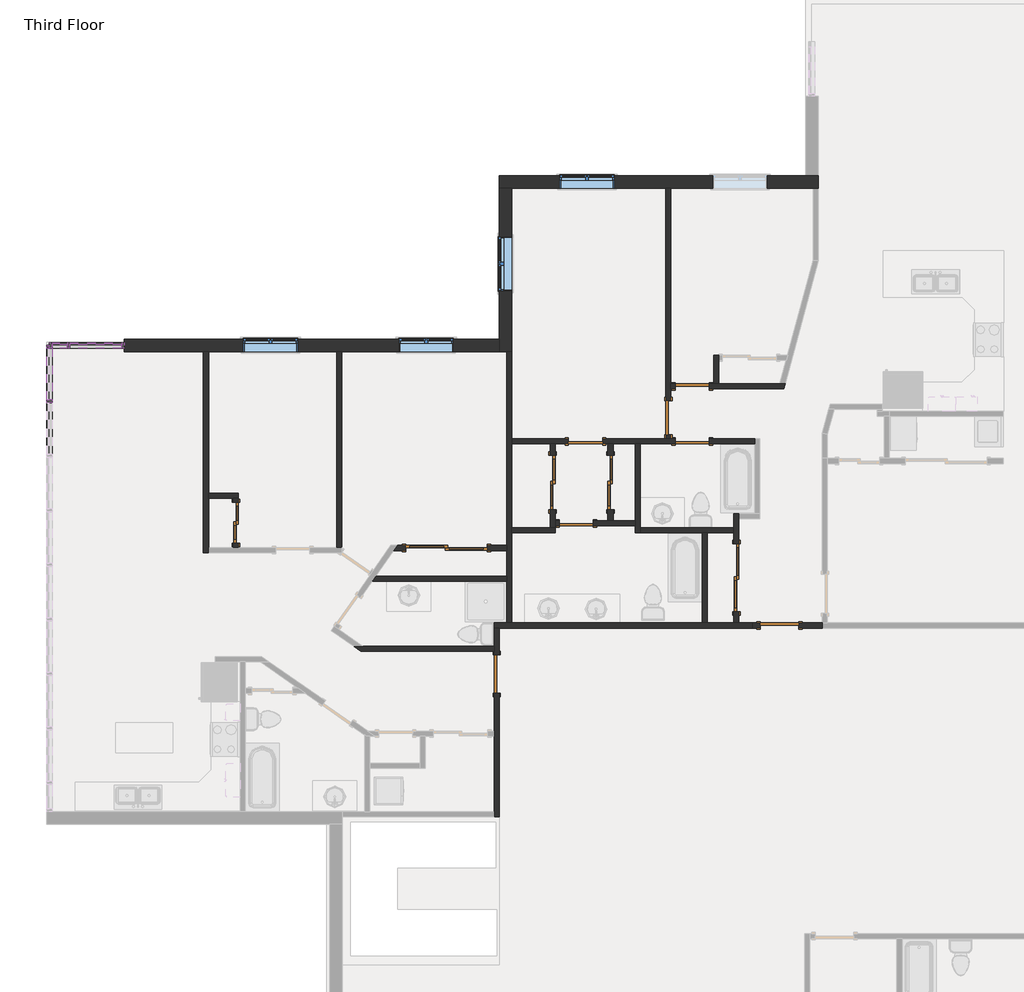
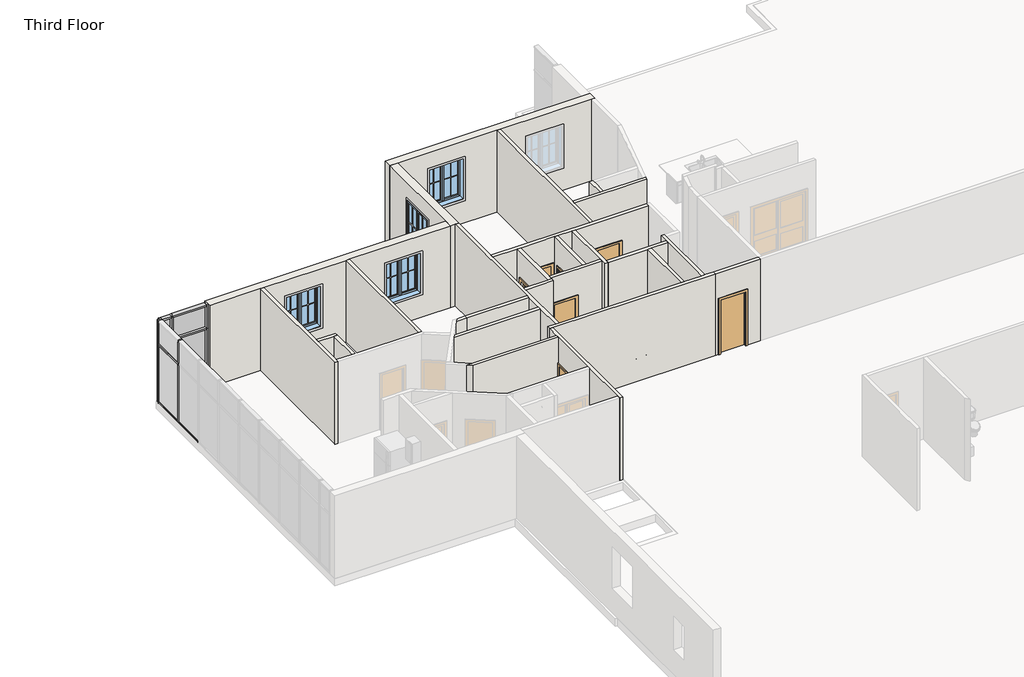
# One storey, part 8 of 17: 27 walls, 19 members, 12 doors, 4 plates, 4 windows.
"""IFC4 building model written with IfcOpenShell, lengths in millimetres."""

from ifc_helpers import new_model, si_unit, frame, origin, place, context, project, spatial, polyline, outline, extrude, faceted_brep, transform, mapped, element, save
from components import door_d8f5dbb5, door_f2b275c1, door_825b8444, door_c29894e6, door_88c23cd7, door_900f836f, door_2e7ec8be, door_caaf2a11, rectangular_mullion_rectangular_mullion_1_fa3625a1, rectangular_mullion_rectangular_mullion_1_7cbf0b94, rectangular_mullion_rectangular_mullion_1_6186cc23, rectangular_mullion_rectangular_mullion_1_049a2e78, rectangular_mullion_rectangular_mullion_1_a50b3cda, rectangular_mullion_rectangular_mullion_1_5cd4c5ac, rectangular_mullion_rectangular_mullion_1_64aff199, rectangular_mullion_rectangular_mullion_1_b6c962ab, system_panel_glazed_0ed27d1d, system_panel_glazed_134bacdb, system_panel_glazed_a3383988, system_panel_glazed_d9a092fd, window_33528cc2

model = new_model("IFC4")

# Units and contexts
model_context = context("Model", 3, world=origin())
ifc_project = project(units=[si_unit("LENGTHUNIT", "METRE", prefix="MILLI")], contexts=[model_context])

# Site, building, storey
site = spatial("IfcSite", under=ifc_project)
building = spatial("IfcBuilding", under=site)
storey = spatial("IfcBuildingStorey", under=building, Name="Third Floor", Elevation=6096.0)

# Doors
placement = place(None, origin())
door_shape = door_d8f5dbb5(model_context)
element("IfcDoor", 1, ObjectType="Single-Flush : 30\" x 80\"", at=placement, inside=storey, context=model_context, shape_type="MappedRepresentation", body=[
    mapped(door_shape, transform((12409.9063982, 4588.2091714, 6096.0), x_axis=(-1.0, 0.0, 0.0), y_axis=(0.0, -1.0, 0.0), z_axis=(0.0, 0.0, 1.0))),
])
door_2_shape = door_f2b275c1(model_context)
element("IfcDoor", 2, ObjectType="Single-Flush : 30\" x 80\"", at=placement, inside=storey, context=model_context, shape_type="MappedRepresentation", body=[
    mapped(door_2_shape, transform((15004.9379006, 7654.5108545, 6096.0), x_axis=(-1.0, 0.0, 0.0), y_axis=(0.0, -1.0, 0.0), z_axis=(0.0, 0.0, 1.0))),
])
element("IfcDoor", 3, ObjectType="Single-Flush : 30\" x 80\"", at=placement, inside=storey, context=model_context, shape_type="MappedRepresentation", body=[
    mapped(door_2_shape, transform((14468.0674417, 6956.8936958, 6096.0), x_axis=(0.0, -1.0, 0.0), y_axis=(1.0, 0.0, 0.0), z_axis=(0.0, 0.0, 1.0))),
])
element("IfcDoor", 4, ObjectType="Single-Flush : 30\" x 80\"", at=placement, inside=storey, context=model_context, shape_type="MappedRepresentation", body=[
    mapped(door_2_shape, transform((12612.1535557, 6423.4936958, 6096.0), x_axis=(1.0, 0.0, 0.0), y_axis=(0.0, 1.0, 0.0), z_axis=(0.0, 0.0, 1.0))),
])
element("IfcDoor", 5, ObjectType="Single-Flush : 30\" x 80\"", at=placement, inside=storey, context=model_context, shape_type="MappedRepresentation", body=[
    mapped(door_2_shape, transform((15001.4674417, 6423.4936958, 6096.0), x_axis=(1.0, 0.0, 0.0), y_axis=(0.0, 1.0, 0.0), z_axis=(0.0, 0.0, 1.0))),
])
door_3_shape = door_825b8444(model_context)
element("IfcDoor", 6, ObjectType="Single-Flush : 34\" x 80\"", at=placement, inside=storey, context=model_context, shape_type="MappedRepresentation", body=[
    mapped(door_3_shape, transform((16954.6993195, 2302.2091714, 6096.0), x_axis=(-1.0, 0.0, 0.0), y_axis=(0.0, -1.0, 0.0), z_axis=(0.0, 0.0, 1.0))),
])
door_4_shape = door_c29894e6(model_context)
element("IfcDoor", 7, ObjectType="Single-Flush : 34\" x 80\"", at=placement, inside=storey, context=model_context, shape_type="MappedRepresentation", body=[
    mapped(door_4_shape, transform((10626.433999, 1220.4185137, 6096.0), x_axis=(0.0, 1.0, 0.0), y_axis=(-1.0, 0.0, 0.0), z_axis=(0.0, 0.0, 1.0))),
])
door_5_shape = door_88c23cd7(model_context)
element("IfcDoor", 8, ObjectType="Sliding-Closet : 36\" x 80\"", at=placement, inside=storey, context=model_context, shape_type="MappedRepresentation", body=[
    mapped(door_5_shape, transform((4658.4503923, 4599.0838873, 6096.0), x_axis=(0.0, -1.0, 0.0), y_axis=(1.0, 0.0, 0.0), z_axis=(0.0, 0.0, 1.0))),
])
door_6_shape = door_900f836f(model_context)
element("IfcDoor", 9, ObjectType="Sliding-Closet : 48\" x 80\"", at=placement, inside=storey, context=model_context, shape_type="MappedRepresentation", body=[
    mapped(door_6_shape, transform((11749.5063982, 5505.8514336, 6096.0), x_axis=(0.0, -1.0, 0.0), y_axis=(1.0, 0.0, 0.0), z_axis=(0.0, 0.0, 1.0))),
])
element("IfcDoor", 10, ObjectType="Sliding-Closet : 48\" x 80\"", at=placement, inside=storey, context=model_context, shape_type="MappedRepresentation", body=[
    mapped(door_6_shape, transform((13297.9535557, 5505.8514336, 6096.0), x_axis=(0.0, 1.0, 0.0), y_axis=(-1.0, 0.0, 0.0), z_axis=(0.0, 0.0, 1.0))),
])
door_7_shape = door_2e7ec8be(model_context)
element("IfcDoor", 11, ObjectType="Sliding-Closet : 60\" x 80\"", at=placement, inside=storey, context=model_context, shape_type="MappedRepresentation", body=[
    mapped(door_7_shape, transform((15862.4993195, 3369.0091714, 6096.0), x_axis=(0.0, -1.0, 0.0), y_axis=(1.0, 0.0, 0.0), z_axis=(0.0, 0.0, 1.0))),
])
door_8_shape = door_caaf2a11(model_context)
element("IfcDoor", 12, ObjectType="Sliding-Closet : 72\" x 80\"", at=placement, inside=storey, context=model_context, shape_type="MappedRepresentation", body=[
    mapped(door_8_shape, transform((9498.6267396, 3910.2829071, 6096.0), x_axis=(1.0, 0.0, 0.0), y_axis=(0.0, 1.0, 0.0), z_axis=(0.0, 0.0, 1.0))),
])

# Members
rectangular_mullion_rectangular_mullion_1_shape = rectangular_mullion_rectangular_mullion_1_fa3625a1(model_context)
element("IfcMember", 13, ObjectType="Rectangular Mullion : Rectangular Mullion 1", at=placement, inside=storey, context=model_context, shape_type="MappedRepresentation", body=[
    mapped(rectangular_mullion_rectangular_mullion_1_shape, transform((1069.5831156, 8571.3427849, 9144.0), x_axis=(0.0, 0.0, 1.0), y_axis=(0.0, 1.0, 0.0), z_axis=(-1.0, 0.0, 0.0))),
])
element("IfcMember", 14, ObjectType="Rectangular Mullion : Rectangular Mullion 1", at=placement, inside=storey, context=model_context, shape_type="MappedRepresentation", body=[
    mapped(rectangular_mullion_rectangular_mullion_1_shape, transform((2225.2831159, 8571.3427849, 6096.0), x_axis=(0.0, 0.0, -1.0), y_axis=(0.0, 1.0, 0.0), z_axis=(1.0, 0.0, 0.0))),
])
element("IfcMember", 15, ObjectType="Rectangular Mullion : Rectangular Mullion 1", at=placement, inside=storey, context=model_context, shape_type="MappedRepresentation", body=[
    mapped(rectangular_mullion_rectangular_mullion_1_shape, transform((612.3831159, 8507.8427849, 6096.0), x_axis=(0.0, 0.0, -1.0), y_axis=(-1.0, 0.0, 0.0), z_axis=(0.0, 1.0, 0.0))),
])
element("IfcMember", 16, ObjectType="Rectangular Mullion : Rectangular Mullion 1", at=placement, inside=storey, context=model_context, shape_type="MappedRepresentation", body=[
    mapped(rectangular_mullion_rectangular_mullion_1_shape, transform((612.3831159, 7288.6427846, 6096.0), x_axis=(0.0, 0.0, -1.0), y_axis=(-1.0, 0.0, 0.0), z_axis=(0.0, 1.0, 0.0))),
])
rectangular_mullion_rectangular_mullion_1_2_shape = rectangular_mullion_rectangular_mullion_1_7cbf0b94(model_context)
element("IfcMember", 17, ObjectType="Rectangular Mullion : Rectangular Mullion 1", at=placement, inside=storey, context=model_context, shape_type="MappedRepresentation", body=[
    mapped(rectangular_mullion_rectangular_mullion_1_2_shape, transform((1069.5831156, 8571.3427849, 8261.35), x_axis=(0.0, 0.0, 1.0), y_axis=(0.0, 1.0, 0.0), z_axis=(-1.0, 0.0, 0.0))),
])
element("IfcMember", 18, ObjectType="Rectangular Mullion : Rectangular Mullion 1", at=placement, inside=storey, context=model_context, shape_type="MappedRepresentation", body=[
    mapped(rectangular_mullion_rectangular_mullion_1_2_shape, transform((612.3831159, 7352.1427846, 8261.35), x_axis=(0.0, 0.0, 1.0), y_axis=(-1.0, 0.0, 0.0), z_axis=(0.0, -1.0, 0.0))),
])
rectangular_mullion_rectangular_mullion_1_3_shape = rectangular_mullion_rectangular_mullion_1_6186cc23(model_context)
element("IfcMember", 19, ObjectType="Rectangular Mullion : Rectangular Mullion 1", at=placement, inside=storey, context=model_context, shape_type="MappedRepresentation", body=[
    mapped(rectangular_mullion_rectangular_mullion_1_3_shape, transform((1037.8331156, 8571.3427849, 6096.0), x_axis=(-1.0, 0.0, 0.0), y_axis=(0.0, 1.0, 0.0), z_axis=(0.0, 0.0, -1.0))),
])
element("IfcMember", 20, ObjectType="Rectangular Mullion : Rectangular Mullion 1", at=placement, inside=storey, context=model_context, shape_type="MappedRepresentation", body=[
    mapped(rectangular_mullion_rectangular_mullion_1_3_shape, transform((612.3831159, 7320.3927846, 6096.0), x_axis=(0.0, -1.0, 0.0), y_axis=(-1.0, 0.0, 0.0), z_axis=(0.0, 0.0, -1.0))),
])
rectangular_mullion_rectangular_mullion_1_4_shape = rectangular_mullion_rectangular_mullion_1_049a2e78(model_context)
element("IfcMember", 21, ObjectType="Rectangular Mullion : Rectangular Mullion 1", at=placement, inside=storey, context=model_context, shape_type="MappedRepresentation", body=[
    mapped(rectangular_mullion_rectangular_mullion_1_4_shape, transform((1037.8331156, 8571.3427849, 8261.35), x_axis=(-1.0, 0.0, 0.0), y_axis=(0.0, 1.0, 0.0), z_axis=(0.0, 0.0, -1.0))),
])
element("IfcMember", 22, ObjectType="Rectangular Mullion : Rectangular Mullion 1", at=placement, inside=storey, context=model_context, shape_type="MappedRepresentation", body=[
    mapped(rectangular_mullion_rectangular_mullion_1_4_shape, transform((612.3831159, 7320.3927846, 8261.35), x_axis=(0.0, -1.0, 0.0), y_axis=(-1.0, 0.0, 0.0), z_axis=(0.0, 0.0, -1.0))),
])
rectangular_mullion_rectangular_mullion_1_5_shape = rectangular_mullion_rectangular_mullion_1_a50b3cda(model_context)
element("IfcMember", 23, ObjectType="Rectangular Mullion : Rectangular Mullion 1", at=placement, inside=storey, context=model_context, shape_type="MappedRepresentation", body=[
    mapped(rectangular_mullion_rectangular_mullion_1_5_shape, transform((612.3831159, 8571.3427849, 6096.0), x_axis=(-1.0, 0.0, 0.0), y_axis=(0.0, 1.0, 0.0), z_axis=(0.0, 0.0, -1.0))),
])
rectangular_mullion_rectangular_mullion_1_6_shape = rectangular_mullion_rectangular_mullion_1_5cd4c5ac(model_context)
element("IfcMember", 24, ObjectType="Rectangular Mullion : Rectangular Mullion 1", at=placement, inside=storey, context=model_context, shape_type="MappedRepresentation", body=[
    mapped(rectangular_mullion_rectangular_mullion_1_6_shape, transform((612.3831159, 8571.3427849, 8261.35), x_axis=(-1.0, 0.0, 0.0), y_axis=(0.0, 1.0, 0.0), z_axis=(0.0, 0.0, -1.0))),
])
element("IfcMember", 25, ObjectType="Rectangular Mullion : Rectangular Mullion 1", at=placement, inside=storey, context=model_context, shape_type="MappedRepresentation", body=[
    mapped(rectangular_mullion_rectangular_mullion_1_6_shape, transform((2288.7831159, 8571.3427849, 9144.0), x_axis=(1.0, 0.0, 0.0), y_axis=(0.0, 1.0, 0.0), z_axis=(0.0, 0.0, 1.0))),
])
element("IfcMember", 26, ObjectType="Rectangular Mullion : Rectangular Mullion 1", at=placement, inside=storey, context=model_context, shape_type="MappedRepresentation", body=[
    mapped(rectangular_mullion_rectangular_mullion_1_6_shape, transform((612.3831159, 8571.3427849, 9144.0), x_axis=(0.0, 1.0, 0.0), y_axis=(-1.0, 0.0, 0.0), z_axis=(0.0, 0.0, 1.0))),
])
element("IfcMember", 27, ObjectType="Rectangular Mullion : Rectangular Mullion 1", at=placement, inside=storey, context=model_context, shape_type="MappedRepresentation", body=[
    mapped(rectangular_mullion_rectangular_mullion_1_5_shape, transform((2288.7831159, 8571.3427849, 8261.35), x_axis=(1.0, 0.0, 0.0), y_axis=(0.0, 1.0, 0.0), z_axis=(0.0, 0.0, 1.0))),
])
element("IfcMember", 28, ObjectType="Rectangular Mullion : Rectangular Mullion 1", at=placement, inside=storey, context=model_context, shape_type="MappedRepresentation", body=[
    mapped(rectangular_mullion_rectangular_mullion_1_5_shape, transform((612.3831159, 8571.3427849, 8261.35), x_axis=(0.0, 1.0, 0.0), y_axis=(-1.0, 0.0, 0.0), z_axis=(0.0, 0.0, 1.0))),
])
rectangular_mullion_rectangular_mullion_1_7_shape = rectangular_mullion_rectangular_mullion_1_64aff199(model_context)
element("IfcMember", 29, ObjectType="Rectangular Mullion : Rectangular Mullion 1", at=placement, inside=storey, context=model_context, shape_type="MappedRepresentation", body=[
    mapped(rectangular_mullion_rectangular_mullion_1_7_shape, transform((675.8831159, 8571.3427849, 9144.0), x_axis=(0.0, 0.0, 1.0), y_axis=(0.0, 1.0, 0.0), z_axis=(-1.0, 0.0, 0.0))),
])
element("IfcMember", 30, ObjectType="Rectangular Mullion : Rectangular Mullion 1", at=placement, inside=storey, context=model_context, shape_type="MappedRepresentation", body=[
    mapped(rectangular_mullion_rectangular_mullion_1_7_shape, transform((1006.0831156, 8571.3427849, 6096.0), x_axis=(0.0, 0.0, -1.0), y_axis=(0.0, 1.0, 0.0), z_axis=(1.0, 0.0, 0.0))),
])
rectangular_mullion_rectangular_mullion_1_8_shape = rectangular_mullion_rectangular_mullion_1_b6c962ab(model_context)
element("IfcMember", 31, ObjectType="Rectangular Mullion : Rectangular Mullion 1", at=placement, inside=storey, context=model_context, shape_type="MappedRepresentation", body=[
    mapped(rectangular_mullion_rectangular_mullion_1_8_shape, transform((675.8831159, 8571.3427849, 8261.35), x_axis=(0.0, 0.0, 1.0), y_axis=(0.0, 1.0, 0.0), z_axis=(-1.0, 0.0, 0.0))),
])

# Plates
system_panel_glazed_shape = system_panel_glazed_0ed27d1d(model_context)
element("IfcPlate", 32, ObjectType="System Panel : Glazed", at=placement, inside=storey, context=model_context, shape_type="MappedRepresentation", body=[
    mapped(system_panel_glazed_shape, transform((1647.4331158, 8571.3427849, 6159.5), x_axis=(-1.0, 0.0, 0.0), y_axis=(0.0, -1.0, 0.0), z_axis=(0.0, 0.0, 1.0))),
])
system_panel_glazed_2_shape = system_panel_glazed_134bacdb(model_context)
element("IfcPlate", 33, ObjectType="System Panel : Glazed", at=placement, inside=storey, context=model_context, shape_type="MappedRepresentation", body=[
    mapped(system_panel_glazed_2_shape, transform((1647.4331158, 8571.3427849, 8293.1), x_axis=(-1.0, 0.0, 0.0), y_axis=(0.0, -1.0, 0.0), z_axis=(0.0, 0.0, 1.0))),
])
system_panel_glazed_3_shape = system_panel_glazed_a3383988(model_context)
element("IfcPlate", 34, ObjectType="System Panel : Glazed", at=placement, inside=storey, context=model_context, shape_type="MappedRepresentation", body=[
    mapped(system_panel_glazed_3_shape, transform((840.9831158, 8571.3427849, 6159.5), x_axis=(-1.0, 0.0, 0.0), y_axis=(0.0, -1.0, 0.0), z_axis=(0.0, 0.0, 1.0))),
])
system_panel_glazed_4_shape = system_panel_glazed_d9a092fd(model_context)
element("IfcPlate", 35, ObjectType="System Panel : Glazed", at=placement, inside=storey, context=model_context, shape_type="MappedRepresentation", body=[
    mapped(system_panel_glazed_4_shape, transform((840.9831158, 8571.3427849, 8293.1), x_axis=(-1.0, 0.0, 0.0), y_axis=(0.0, -1.0, 0.0), z_axis=(0.0, 0.0, 1.0))),
])

# Walls
element("IfcWall", 36, ObjectType="Exterior - Brick on Wood Stud", at=placement, inside=storey, context=model_context, shape_type="Brep", body=[
    faceted_brep([(17820.1121608, 12370.2302849, 6096.0), (17537.5371608, 12370.2302849, 6096.0), (10681.8956159, 12370.2302849, 6096.0), (10681.8956159, 12370.2302849, 9144.0), (17537.5371608, 12370.2302849, 9144.0), (17820.1121608, 12370.2302849, 9144.0), (13255.2252788, 12370.2302849, 8534.4), (12036.0252788, 12370.2302849, 8534.4), (12036.0252788, 12370.2302849, 7010.4), (13255.2252788, 12370.2302849, 7010.4), (16683.0460512, 12370.2302849, 8534.4), (15463.8460512, 12370.2302849, 8534.4), (15463.8460512, 12370.2302849, 7010.4), (16683.0460512, 12370.2302849, 7010.4), (17820.1121608, 12087.6552849, 6096.0), (17820.1121608, 12087.6552849, 9144.0), (17705.8121608, 12087.6552849, 9144.0), (14525.2174417, 12087.6552849, 9144.0), (14410.9174417, 12087.6552849, 9144.0), (10964.4706159, 12087.6552849, 9144.0), (10681.8956159, 12087.6552849, 9144.0), (10681.8956159, 12087.6552849, 6096.0), (10964.4706159, 12087.6552849, 6096.0), (14410.9174417, 12087.6552849, 6096.0), (14525.2174417, 12087.6552849, 6096.0), (17705.8121608, 12087.6552849, 6096.0), (13255.2252788, 12087.6552849, 8534.4), (13255.2252788, 12087.6552849, 7010.4), (12036.0252788, 12087.6552849, 7010.4), (12036.0252788, 12087.6552849, 8534.4), (16683.0460512, 12087.6552849, 8534.4), (16683.0460512, 12087.6552849, 7010.4), (15463.8460512, 12087.6552849, 7010.4), (15463.8460512, 12087.6552849, 8534.4)], [[[0, 1, 2, 3, 4, 5], [6, 7, 8, 9], [10, 11, 12, 13]], [[14, 15, 16, 17, 18, 19, 20, 21, 22, 23, 24, 25], [26, 27, 28, 29], [30, 31, 32, 33]], [[2, 1, 0, 14, 25, 24, 23, 22, 21]], [[5, 4, 3, 20, 19, 18, 17, 16, 15]], [[27, 26, 6, 9]], [[28, 27, 9, 8]], [[29, 28, 8, 7]], [[26, 29, 7, 6]], [[31, 30, 10, 13]], [[32, 31, 13, 12]], [[33, 32, 12, 11]], [[30, 33, 11, 10]], [[0, 5, 15, 14]], [[3, 2, 21, 20]]]),
])
element("IfcWall", 37, ObjectType="Exterior - Brick on Wood Stud", at=placement, inside=storey, context=model_context, shape_type="Brep", body=[
    faceted_brep([(10681.8956159, 12087.6552849, 6096.0), (10681.8956159, 8712.6302849, 6096.0), (10681.8956159, 8430.0552849, 6096.0), (10681.8956159, 8430.0552849, 9144.0), (10681.8956159, 8712.6302849, 9144.0), (10681.8956159, 12087.6552849, 9144.0), (10681.8956159, 11009.7427849, 8534.4), (10681.8956159, 9790.5427849, 8534.4), (10681.8956159, 9790.5427849, 7010.4), (10681.8956159, 11009.7427849, 7010.4), (10964.4706159, 12087.6552849, 6096.0), (10964.4706159, 12087.6552849, 9144.0), (10964.4706159, 8430.0552849, 9144.0), (10964.4706159, 8430.0552849, 6096.0), (10964.4706159, 11009.7427849, 8534.4), (10964.4706159, 11009.7427849, 7010.4), (10964.4706159, 9790.5427849, 7010.4), (10964.4706159, 9790.5427849, 8534.4), (10850.1706159, 8430.0552849, 6096.0), (10850.1706159, 8430.0552849, 9144.0)], [[[0, 1, 2, 3, 4, 5], [6, 7, 8, 9]], [[10, 11, 12, 13], [14, 15, 16, 17]], [[2, 1, 0, 10, 13, 18]], [[5, 4, 3, 19, 12, 11]], [[15, 14, 6, 9]], [[16, 15, 9, 8]], [[17, 16, 8, 7]], [[14, 17, 7, 6]], [[3, 2, 18, 13, 12, 19]], [[0, 5, 11, 10]]]),
])
element("IfcWall", 38, ObjectType="Exterior - Brick on Wood Stud", at=placement, inside=storey, context=model_context, shape_type="Brep", body=[
    faceted_brep([(10681.8956159, 8712.6302849, 6096.0), (2288.7831159, 8712.6302849, 6096.0), (2288.7831159, 8712.6302849, 9144.0), (10681.8956159, 8712.6302849, 9144.0), (6168.7897364, 8712.6302849, 8534.4), (4949.5897364, 8712.6302849, 8534.4), (4949.5897364, 8712.6302849, 7010.4), (6168.7897364, 8712.6302849, 7010.4), (9654.7831159, 8712.6302849, 8534.4), (8435.5831159, 8712.6302849, 8534.4), (8435.5831159, 8712.6302849, 7010.4), (9654.7831159, 8712.6302849, 7010.4), (10681.8956159, 8430.0552849, 6096.0), (10681.8956159, 8430.0552849, 9144.0), (7160.5967971, 8430.0552849, 9144.0), (7046.2967971, 8430.0552849, 9144.0), (4173.6826756, 8430.0552849, 9144.0), (4059.3826756, 8430.0552849, 9144.0), (2288.7831159, 8430.0552849, 9144.0), (2288.7831159, 8430.0552849, 6096.0), (4059.3826756, 8430.0552849, 6096.0), (4173.6826756, 8430.0552849, 6096.0), (7046.2967971, 8430.0552849, 6096.0), (7160.5967971, 8430.0552849, 6096.0), (6168.7897364, 8430.0552849, 8534.4), (6168.7897364, 8430.0552849, 7010.4), (4949.5897364, 8430.0552849, 7010.4), (4949.5897364, 8430.0552849, 8534.4), (9654.7831159, 8430.0552849, 8534.4), (9654.7831159, 8430.0552849, 7010.4), (8435.5831159, 8430.0552849, 7010.4), (8435.5831159, 8430.0552849, 8534.4)], [[[0, 1, 2, 3], [4, 5, 6, 7], [8, 9, 10, 11]], [[12, 13, 14, 15, 16, 17, 18, 19, 20, 21, 22, 23], [24, 25, 26, 27], [28, 29, 30, 31]], [[1, 0, 12, 23, 22, 21, 20, 19]], [[2, 1, 19, 18]], [[3, 2, 18, 17, 16, 15, 14, 13]], [[25, 24, 4, 7]], [[26, 25, 7, 6]], [[27, 26, 6, 5]], [[24, 27, 5, 4]], [[29, 28, 8, 11]], [[30, 29, 11, 10]], [[31, 30, 10, 9]], [[28, 31, 9, 8]], [[0, 3, 13, 12]]]),
])
element("IfcWall", 39, ObjectType="Interior - 4 1/2\" Partition", at=placement, inside=storey, context=model_context, shape_type="Brep", body=[
    faceted_brep([(10964.4706159, 2359.3591714, 6096.0), (10964.4706159, 4378.6591714, 6096.0), (10964.4706159, 4492.9591714, 6096.0), (10964.4706159, 6366.3436958, 6096.0), (10964.4706159, 6480.6436958, 6096.0), (10964.4706159, 8430.0552849, 6096.0), (10964.4706159, 8430.0552849, 9144.0), (10964.4706159, 6480.6436958, 9144.0), (10964.4706159, 6366.3436958, 9144.0), (10964.4706159, 4492.9591714, 9144.0), (10964.4706159, 4378.6591714, 9144.0), (10964.4706159, 2359.3591714, 9144.0), (10850.1706159, 2359.3591714, 6096.0), (10850.1706159, 2359.3591714, 9144.0), (10850.1706159, 3289.4624849, 9144.0), (10850.1706159, 3403.7624849, 9144.0), (10850.1706159, 3980.1329071, 9144.0), (10850.1706159, 4094.4329071, 9144.0), (10850.1706159, 8430.0552849, 9144.0), (10850.1706159, 8430.0552849, 6096.0), (10850.1706159, 4094.4329071, 6096.0), (10850.1706159, 3980.1329071, 6096.0), (10850.1706159, 3403.7624849, 6096.0), (10850.1706159, 3289.4624849, 6096.0)], [[[0, 1, 2, 3, 4, 5, 6, 7, 8, 9, 10, 11]], [[12, 13, 14, 15, 16, 17, 18, 19, 20, 21, 22, 23]], [[5, 4, 3, 2, 1, 0, 12, 23, 22, 21, 20, 19]], [[11, 10, 9, 8, 7, 6, 18, 17, 16, 15, 14, 13]], [[0, 11, 13, 12]], [[6, 5, 19, 18]]]),
])
element("IfcWall", 40, ObjectType="Interior - 4 1/2\" Partition", at=placement, inside=storey, context=model_context, shape_type="Brep", body=[
    faceted_brep([(10569.283999, 2245.0591714, 6096.0), (10569.283999, 1836.3685137, 6096.0), (10569.283999, 1722.0685137, 6096.0), (10569.283999, 1652.2185137, 6096.0), (10569.283999, 1652.2185137, 8128.0), (10569.283999, 788.6185137, 8128.0), (10569.283999, 788.6185137, 6096.0), (10569.283999, -58.9797775, 6096.0), (10569.283999, -173.2797775, 6096.0), (10569.283999, -1864.031369, 6096.0), (10569.283999, -1978.331369, 6096.0), (10569.283999, -1978.331369, 9144.0), (10569.283999, -1864.031369, 9144.0), (10569.283999, -173.2797775, 9144.0), (10569.283999, -58.9797775, 9144.0), (10569.283999, 1722.0685137, 9144.0), (10569.283999, 1836.3685137, 9144.0), (10569.283999, 2245.0591714, 9144.0), (10683.583999, 1652.2185137, 8128.0), (10683.583999, 1652.2185137, 6096.0), (10683.583999, 2245.0591714, 6096.0), (10683.583999, 2245.0591714, 9144.0), (10683.583999, -1978.331369, 9144.0), (10683.583999, -1978.331369, 6096.0), (10683.583999, 788.6185137, 6096.0), (10683.583999, 788.6185137, 8128.0)], [[[0, 1, 2, 3, 4, 5, 6, 7, 8, 9, 10, 11, 12, 13, 14, 15, 16, 17]], [[18, 19, 20, 21, 22, 23, 24, 25]], [[24, 23, 10, 9, 8, 7, 6]], [[20, 19, 3, 2, 1, 0]], [[17, 16, 15, 14, 13, 12, 11, 22, 21]], [[4, 3, 19, 18]], [[5, 4, 18, 25]], [[6, 5, 25, 24]], [[11, 10, 23, 22]], [[0, 17, 21, 20]]]),
])
element("IfcWall", 41, ObjectType="Interior - 4 1/2\" Partition", at=placement, inside=storey, context=model_context, shape_type="SweptSolid", body=[
    extrude(outline(polyline([(6096.0, 16345.0993195), (6096.0, 16522.8993195), (8128.0, 16522.8993195), (8128.0, 17386.4993195), (6096.0, 17386.4993195), (6096.0, 17913.5493195), (9144.0, 17913.5493195), (9144.0, 16345.0993195), (6096.0, 16345.0993195)])), frame((0.0, 2245.0591714, 0.0), z_axis=(0.0, 1.0, 0.0), x_axis=(0.0, 0.0, 1.0)), (0.0, 0.0, 1.0), 114.3),
])
element("IfcWall", 42, ObjectType="Interior - 4 1/2\" Partition", at=placement, inside=storey, context=model_context, shape_type="Brep", body=[
    faceted_brep([(16345.0993195, 2359.3591714, 6096.0), (16046.6493195, 2359.3591714, 6096.0), (15932.3493195, 2359.3591714, 6096.0), (15335.4493195, 2359.3591714, 6096.0), (15221.1493195, 2359.3591714, 6096.0), (10964.4706159, 2359.3591714, 6096.0), (10850.1706159, 2359.3591714, 6096.0), (10569.283999, 2359.3591714, 6096.0), (10569.283999, 2359.3591714, 9144.0), (10850.1706159, 2359.3591714, 9144.0), (10964.4706159, 2359.3591714, 9144.0), (15221.1493195, 2359.3591714, 9144.0), (15335.4493195, 2359.3591714, 9144.0), (15932.3493195, 2359.3591714, 9144.0), (16046.6493195, 2359.3591714, 9144.0), (16345.0993195, 2359.3591714, 9144.0), (16345.0993195, 2245.0591714, 6096.0), (16345.0993195, 2245.0591714, 9144.0), (10683.583999, 2245.0591714, 9144.0), (10569.283999, 2245.0591714, 9144.0), (10569.283999, 2245.0591714, 6096.0), (10683.583999, 2245.0591714, 6096.0)], [[[0, 1, 2, 3, 4, 5, 6, 7, 8, 9, 10, 11, 12, 13, 14, 15]], [[16, 17, 18, 19, 20, 21]], [[7, 6, 5, 4, 3, 2, 1, 0, 16, 21, 20]], [[15, 14, 13, 12, 11, 10, 9, 8, 19, 18, 17]], [[0, 15, 17, 16]], [[8, 7, 20, 19]]]),
])
element("IfcWall", 43, ObjectType="Interior - 4 1/2\" Partition", at=placement, inside=storey, context=model_context, shape_type="SweptSolid", body=[
    extrude(outline(polyline([(15335.4493195, 4378.6591714), (15335.4493195, 2359.3591714), (15221.1493195, 2359.3591714), (15221.1493195, 4378.6591714), (15335.4493195, 4378.6591714)])), frame((0.0, 0.0, 6096.0), z_axis=(0.0, 0.0, 1.0), x_axis=(1.0, 0.0, 0.0)), (0.0, 0.0, 1.0), 3048.0),
])
element("IfcWall", 44, ObjectType="Interior - 4 1/2\" Partition", at=placement, inside=storey, context=model_context, shape_type="Brep", body=[
    faceted_brep([(13837.7035557, 4378.6591714, 6096.0), (15221.1493195, 4378.6591714, 6096.0), (15335.4493195, 4378.6591714, 6096.0), (15932.3493195, 4378.6591714, 6096.0), (15932.3493195, 4378.6591714, 9144.0), (15335.4493195, 4378.6591714, 9144.0), (15221.1493195, 4378.6591714, 9144.0), (13837.7035557, 4378.6591714, 9144.0), (13837.7035557, 4492.9591714, 6096.0), (13837.7035557, 4492.9591714, 9144.0), (15932.3493195, 4492.9591714, 9144.0), (15932.3493195, 4492.9591714, 6096.0)], [[[0, 1, 2, 3, 4, 5, 6, 7]], [[8, 9, 10, 11]], [[3, 2, 1, 0, 8, 11]], [[7, 6, 5, 4, 10, 9]], [[0, 7, 9, 8]], [[4, 3, 11, 10]]]),
])
element("IfcWall", 45, ObjectType="Interior - 4 1/2\" Partition", at=placement, inside=storey, context=model_context, shape_type="Brep", body=[
    faceted_brep([(15932.3493195, 2607.0091714, 8128.0), (15932.3493195, 2607.0091714, 6096.0), (15932.3493195, 2359.3591714, 6096.0), (15932.3493195, 2359.3591714, 9144.0), (15932.3493195, 4378.6591714, 9144.0), (15932.3493195, 4492.9591714, 9144.0), (15932.3493195, 4807.4366582, 9144.0), (15932.3493195, 4807.4366582, 6096.0), (15932.3493195, 4492.9591714, 6096.0), (15932.3493195, 4378.6591714, 6096.0), (15932.3493195, 4131.0091714, 6096.0), (15932.3493195, 4131.0091714, 8128.0), (16046.6493195, 2359.3591714, 6096.0), (16046.6493195, 2607.0091714, 6096.0), (16046.6493195, 2607.0091714, 8128.0), (16046.6493195, 4131.0091714, 8128.0), (16046.6493195, 4131.0091714, 6096.0), (16046.6493195, 4693.1366582, 6096.0), (16046.6493195, 4807.4366582, 6096.0), (16046.6493195, 4807.4366582, 9144.0), (16046.6493195, 4693.1366582, 9144.0), (16046.6493195, 2359.3591714, 9144.0)], [[[0, 1, 2, 3, 4, 5, 6, 7, 8, 9, 10, 11]], [[12, 13, 14, 15, 16, 17, 18, 19, 20, 21]], [[2, 1, 13, 12]], [[10, 9, 8, 7, 18, 17, 16]], [[6, 5, 4, 3, 21, 20, 19]], [[16, 15, 11, 10]], [[14, 13, 1, 0]], [[15, 14, 0, 11]], [[7, 6, 19, 18]], [[3, 2, 12, 21]]]),
])
element("IfcWall", 46, ObjectType="Interior - 4 1/2\" Partition", at=placement, inside=storey, context=model_context, shape_type="Brep", body=[
    faceted_brep([(16399.0583594, 6480.6436958, 6096.0), (15382.4674417, 6480.6436958, 6096.0), (15382.4674417, 6480.6436958, 8128.0), (14620.4674417, 6480.6436958, 8128.0), (14620.4674417, 6480.6436958, 6096.0), (14525.2174417, 6480.6436958, 6096.0), (14410.9174417, 6480.6436958, 6096.0), (12993.1535557, 6480.6436958, 6096.0), (12993.1535557, 6480.6436958, 8128.0), (12231.1535557, 6480.6436958, 8128.0), (12231.1535557, 6480.6436958, 6096.0), (10964.4706159, 6480.6436958, 6096.0), (10964.4706159, 6480.6436958, 9144.0), (14410.9174417, 6480.6436958, 9144.0), (14525.2174417, 6480.6436958, 9144.0), (16399.0583594, 6480.6436958, 9144.0), (15382.4674417, 6366.3436958, 8128.0), (15382.4674417, 6366.3436958, 6096.0), (16399.0583594, 6366.3436958, 6096.0), (16399.0583594, 6366.3436958, 9144.0), (13837.7035557, 6366.3436958, 9144.0), (13723.4035557, 6366.3436958, 9144.0), (13228.1035557, 6366.3436958, 9144.0), (13113.8035557, 6366.3436958, 9144.0), (11933.6563982, 6366.3436958, 9144.0), (11819.3563982, 6366.3436958, 9144.0), (10964.4706159, 6366.3436958, 9144.0), (10964.4706159, 6366.3436958, 6096.0), (11819.3563982, 6366.3436958, 6096.0), (11933.6563982, 6366.3436958, 6096.0), (12231.1535557, 6366.3436958, 6096.0), (12231.1535557, 6366.3436958, 8128.0), (12993.1535557, 6366.3436958, 8128.0), (12993.1535557, 6366.3436958, 6096.0), (13113.8035557, 6366.3436958, 6096.0), (13228.1035557, 6366.3436958, 6096.0), (13723.4035557, 6366.3436958, 6096.0), (13837.7035557, 6366.3436958, 6096.0), (14620.4674417, 6366.3436958, 6096.0), (14620.4674417, 6366.3436958, 8128.0)], [[[0, 1, 2, 3, 4, 5, 6, 7, 8, 9, 10, 11, 12, 13, 14, 15]], [[16, 17, 18, 19, 20, 21, 22, 23, 24, 25, 26, 27, 28, 29, 30, 31, 32, 33, 34, 35, 36, 37, 38, 39]], [[30, 29, 28, 27, 11, 10]], [[18, 17, 1, 0]], [[38, 37, 36, 35, 34, 33, 7, 6, 5, 4]], [[15, 14, 13, 12, 26, 25, 24, 23, 22, 21, 20, 19]], [[8, 7, 33, 32]], [[9, 8, 32, 31]], [[10, 9, 31, 30]], [[2, 1, 17, 16]], [[3, 2, 16, 39]], [[4, 3, 39, 38]], [[0, 15, 19, 18]], [[12, 11, 27, 26]]]),
])
element("IfcWall", 47, ObjectType="Interior - 4 1/2\" Partition", at=placement, inside=storey, context=model_context, shape_type="Brep", body=[
    faceted_brep([(13723.4035557, 6366.3436958, 6096.0), (13723.4035557, 4645.3591714, 6096.0), (13723.4035557, 4531.0591714, 6096.0), (13723.4035557, 4378.6591714, 6096.0), (13723.4035557, 4378.6591714, 9144.0), (13723.4035557, 4531.0591714, 9144.0), (13723.4035557, 4645.3591714, 9144.0), (13723.4035557, 6366.3436958, 9144.0), (13837.7035557, 6366.3436958, 6096.0), (13837.7035557, 6366.3436958, 9144.0), (13837.7035557, 4492.9591714, 9144.0), (13837.7035557, 4378.6591714, 9144.0), (13837.7035557, 4378.6591714, 6096.0), (13837.7035557, 4492.9591714, 6096.0)], [[[0, 1, 2, 3, 4, 5, 6, 7]], [[8, 9, 10, 11, 12, 13]], [[3, 2, 1, 0, 8, 13, 12]], [[7, 6, 5, 4, 11, 10, 9]], [[4, 3, 12, 11]], [[0, 7, 9, 8]]]),
])
element("IfcWall", 48, ObjectType="Interior - 4 1/2\" Partition", at=placement, inside=storey, context=model_context, shape_type="Brep", body=[
    faceted_brep([(10964.4706159, 4378.6591714, 6096.0), (11933.6563982, 4378.6591714, 6096.0), (11933.6563982, 4378.6591714, 9144.0), (10964.4706159, 4378.6591714, 9144.0), (10964.4706159, 4492.9591714, 6096.0), (10964.4706159, 4492.9591714, 9144.0), (11819.3563982, 4492.9591714, 9144.0), (11933.6563982, 4492.9591714, 9144.0), (11933.6563982, 4492.9591714, 6096.0), (11819.3563982, 4492.9591714, 6096.0)], [[[0, 1, 2, 3]], [[4, 5, 6, 7, 8, 9]], [[1, 0, 4, 9, 8]], [[3, 2, 7, 6, 5]], [[2, 1, 8, 7]], [[0, 3, 5, 4]]]),
])
element("IfcWall", 49, ObjectType="Interior - 4 1/2\" Partition", at=placement, inside=storey, context=model_context, shape_type="Brep", body=[
    faceted_brep([(11933.6563982, 4492.9591714, 6096.0), (11933.6563982, 4531.0591714, 6096.0), (11933.6563982, 4645.3591714, 6096.0), (11933.6563982, 4896.2514336, 6096.0), (11933.6563982, 4896.2514336, 8128.0), (11933.6563982, 6115.4514336, 8128.0), (11933.6563982, 6115.4514336, 6096.0), (11933.6563982, 6366.3436958, 6096.0), (11933.6563982, 6366.3436958, 9144.0), (11933.6563982, 4645.3591714, 9144.0), (11933.6563982, 4531.0591714, 9144.0), (11933.6563982, 4492.9591714, 9144.0), (11819.3563982, 4896.2514336, 8128.0), (11819.3563982, 4896.2514336, 6096.0), (11819.3563982, 4492.9591714, 6096.0), (11819.3563982, 4492.9591714, 9144.0), (11819.3563982, 6366.3436958, 9144.0), (11819.3563982, 6366.3436958, 6096.0), (11819.3563982, 6115.4514336, 6096.0), (11819.3563982, 6115.4514336, 8128.0)], [[[0, 1, 2, 3, 4, 5, 6, 7, 8, 9, 10, 11]], [[12, 13, 14, 15, 16, 17, 18, 19]], [[18, 17, 7, 6]], [[14, 13, 3, 2, 1, 0]], [[11, 10, 9, 8, 16, 15]], [[6, 5, 19, 18]], [[4, 3, 13, 12]], [[5, 4, 12, 19]], [[0, 11, 15, 14]], [[8, 7, 17, 16]]]),
])
element("IfcWall", 50, ObjectType="Interior - 4 1/2\" Partition", at=placement, inside=storey, context=model_context, shape_type="Brep", body=[
    faceted_brep([(11933.6563982, 4531.0591714, 6096.0), (12028.9063982, 4531.0591714, 6096.0), (12028.9063982, 4531.0591714, 8128.0), (12790.9063982, 4531.0591714, 8128.0), (12790.9063982, 4531.0591714, 6096.0), (13723.4035557, 4531.0591714, 6096.0), (13723.4035557, 4531.0591714, 9144.0), (11933.6563982, 4531.0591714, 9144.0), (12028.9063982, 4645.3591714, 8128.0), (12028.9063982, 4645.3591714, 6096.0), (11933.6563982, 4645.3591714, 6096.0), (11933.6563982, 4645.3591714, 9144.0), (13113.8035557, 4645.3591714, 9144.0), (13228.1035557, 4645.3591714, 9144.0), (13723.4035557, 4645.3591714, 9144.0), (13723.4035557, 4645.3591714, 6096.0), (13228.1035557, 4645.3591714, 6096.0), (13113.8035557, 4645.3591714, 6096.0), (12790.9063982, 4645.3591714, 6096.0), (12790.9063982, 4645.3591714, 8128.0)], [[[0, 1, 2, 3, 4, 5, 6, 7]], [[8, 9, 10, 11, 12, 13, 14, 15, 16, 17, 18, 19]], [[10, 9, 1, 0]], [[18, 17, 16, 15, 5, 4]], [[7, 6, 14, 13, 12, 11]], [[2, 1, 9, 8]], [[3, 2, 8, 19]], [[4, 3, 19, 18]], [[0, 7, 11, 10]], [[6, 5, 15, 14]]]),
])
element("IfcWall", 51, ObjectType="Interior - 4 1/2\" Partition", at=placement, inside=storey, context=model_context, shape_type="Brep", body=[
    faceted_brep([(14410.9174417, 6575.8936958, 8128.0), (14410.9174417, 6575.8936958, 6096.0), (14410.9174417, 6480.6436958, 6096.0), (14410.9174417, 6480.6436958, 9144.0), (14410.9174417, 12087.6552849, 9144.0), (14410.9174417, 12087.6552849, 6096.0), (14410.9174417, 7337.8936958, 6096.0), (14410.9174417, 7337.8936958, 8128.0), (14525.2174417, 6480.6436958, 6096.0), (14525.2174417, 6575.8936958, 6096.0), (14525.2174417, 6575.8936958, 8128.0), (14525.2174417, 7337.8936958, 8128.0), (14525.2174417, 7337.8936958, 6096.0), (14525.2174417, 7597.3608545, 6096.0), (14525.2174417, 7711.6608545, 6096.0), (14525.2174417, 12087.6552849, 6096.0), (14525.2174417, 12087.6552849, 9144.0), (14525.2174417, 7711.6608545, 9144.0), (14525.2174417, 7597.3608545, 9144.0), (14525.2174417, 6480.6436958, 9144.0)], [[[0, 1, 2, 3, 4, 5, 6, 7]], [[8, 9, 10, 11, 12, 13, 14, 15, 16, 17, 18, 19]], [[6, 5, 15, 14, 13, 12]], [[2, 1, 9, 8]], [[4, 3, 19, 18, 17, 16]], [[10, 9, 1, 0]], [[11, 10, 0, 7]], [[12, 11, 7, 6]], [[3, 2, 8, 19]], [[5, 4, 16, 15]]]),
])
element("IfcWall", 52, ObjectType="Interior - 4 1/2\" Partition", at=placement, inside=storey, context=model_context, shape_type="Brep", body=[
    faceted_brep([(14525.2174417, 7597.3608545, 6096.0), (14623.9379006, 7597.3608545, 6096.0), (14623.9379006, 7597.3608545, 8128.0), (15385.9379006, 7597.3608545, 8128.0), (15385.9379006, 7597.3608545, 6096.0), (17051.9201791, 7597.3608545, 6096.0), (17051.9201791, 7597.3608545, 9144.0), (14525.2174417, 7597.3608545, 9144.0), (14623.9379006, 7711.6608545, 8128.0), (14623.9379006, 7711.6608545, 6096.0), (14525.2174417, 7711.6608545, 6096.0), (14525.2174417, 7711.6608545, 9144.0), (15484.6583594, 7711.6608545, 9144.0), (15598.9583594, 7711.6608545, 9144.0), (16964.2147043, 7711.6608545, 9144.0), (17082.5467718, 7711.6608545, 9144.0), (17082.5467718, 7711.6608545, 6096.0), (16964.2147043, 7711.6608545, 6096.0), (15598.9583594, 7711.6608545, 6096.0), (15484.6583594, 7711.6608545, 6096.0), (15385.9379006, 7711.6608545, 6096.0), (15385.9379006, 7711.6608545, 8128.0)], [[[0, 1, 2, 3, 4, 5, 6, 7]], [[8, 9, 10, 11, 12, 13, 14, 15, 16, 17, 18, 19, 20, 21]], [[10, 9, 1, 0]], [[20, 19, 18, 17, 16, 5, 4]], [[7, 6, 15, 14, 13, 12, 11]], [[2, 1, 9, 8]], [[3, 2, 8, 21]], [[4, 3, 21, 20]], [[6, 5, 16, 15]], [[0, 7, 11, 10]]]),
])
element("IfcWall", 53, ObjectType="Interior - 4 1/2\" Partition", at=placement, inside=storey, context=model_context, shape_type="Brep", body=[
    faceted_brep([(15598.9583594, 7711.6608545, 6096.0), (15598.9583594, 8240.4076127, 6096.0), (15598.9583594, 8354.7076127, 6096.0), (15598.9583594, 8354.7076127, 9144.0), (15598.9583594, 8240.4076127, 9144.0), (15598.9583594, 7711.6608545, 9144.0), (15484.6583594, 7711.6608545, 6096.0), (15484.6583594, 7711.6608545, 9144.0), (15484.6583594, 8354.7076127, 9144.0), (15484.6583594, 8354.7076127, 6096.0)], [[[0, 1, 2, 3, 4, 5]], [[6, 7, 8, 9]], [[2, 1, 0, 6, 9]], [[5, 4, 3, 8, 7]], [[3, 2, 9, 8]], [[0, 5, 7, 6]]]),
])
element("IfcWall", 54, ObjectType="Interior - 4 1/2\" Partition", at=placement, inside=storey, context=model_context, shape_type="Brep", body=[
    faceted_brep([(4059.3826756, 8430.0552849, 6096.0), (4059.3826756, 3934.0230494, 6096.0), (4059.3826756, 3934.0230494, 9144.0), (4059.3826756, 8430.0552849, 9144.0), (4173.6826756, 8430.0552849, 6096.0), (4173.6826756, 8430.0552849, 9144.0), (4173.6826756, 5264.1447253, 9144.0), (4173.6826756, 5149.8447253, 9144.0), (4173.6826756, 4048.3230494, 9144.0), (4173.6826756, 3934.0230494, 9144.0), (4173.6826756, 3934.0230494, 6096.0), (4173.6826756, 4048.3230494, 6096.0), (4173.6826756, 5149.8447253, 6096.0), (4173.6826756, 5264.1447253, 6096.0)], [[[0, 1, 2, 3]], [[4, 5, 6, 7, 8, 9, 10, 11, 12, 13]], [[1, 0, 4, 13, 12, 11, 10]], [[3, 2, 9, 8, 7, 6, 5]], [[2, 1, 10, 9]], [[0, 3, 5, 4]]]),
])
element("IfcWall", 55, ObjectType="Interior - 4 1/2\" Partition", at=placement, inside=storey, context=model_context, shape_type="SweptSolid", body=[
    extrude(outline(polyline([(7160.5967971, 8430.0552849), (7160.5967971, 4048.3230494), (7046.2967971, 4048.3230494), (7046.2967971, 8430.0552849), (7160.5967971, 8430.0552849)])), frame((0.0, 0.0, 6096.0), z_axis=(0.0, 0.0, 1.0), x_axis=(1.0, 0.0, 0.0)), (0.0, 0.0, 1.0), 3048.0),
])
element("IfcWall", 56, ObjectType="Interior - 4 1/2\" Partition", at=placement, inside=storey, context=model_context, shape_type="Brep", body=[
    faceted_brep([(4173.6826756, 5149.8447253, 6096.0), (4728.3003923, 5149.8447253, 6096.0), (4842.6003923, 5149.8447253, 6096.0), (4842.6003923, 5149.8447253, 9144.0), (4728.3003923, 5149.8447253, 9144.0), (4173.6826756, 5149.8447253, 9144.0), (4173.6826756, 5264.1447253, 6096.0), (4173.6826756, 5264.1447253, 9144.0), (4842.6003923, 5264.1447253, 9144.0), (4842.6003923, 5264.1447253, 6096.0)], [[[0, 1, 2, 3, 4, 5]], [[6, 7, 8, 9]], [[2, 1, 0, 6, 9]], [[5, 4, 3, 8, 7]], [[3, 2, 9, 8]], [[0, 5, 7, 6]]]),
])
element("IfcWall", 57, ObjectType="Interior - 4 1/2\" Partition", at=placement, inside=storey, context=model_context, shape_type="SweptSolid", body=[
    extrude(outline(polyline([(4141.8838873, 8128.0), (4141.8838873, 6096.0), (4048.3230494, 6096.0), (4048.3230494, 9144.0), (5149.8447253, 9144.0), (5149.8447253, 6096.0), (5056.2838873, 6096.0), (5056.2838873, 8128.0), (4141.8838873, 8128.0)])), frame((4728.3003923, 0.0, 0.0), z_axis=(1.0, 0.0, 0.0), x_axis=(0.0, 1.0, 0.0)), (0.0, 0.0, 1.0), 114.3),
])
element("IfcWall", 58, ObjectType="Interior - 4 1/2\" Partition", at=placement, inside=storey, context=model_context, shape_type="Brep", body=[
    faceted_brep([(10569.283999, 1836.3685137, 6096.0), (7621.8533248, 1836.3685137, 6096.0), (7422.5773561, 1836.3685137, 6096.0), (7422.5773561, 1836.3685137, 9144.0), (7621.8533248, 1836.3685137, 9144.0), (10569.283999, 1836.3685137, 9144.0), (10569.283999, 1722.0685137, 6096.0), (10569.283999, 1722.0685137, 9144.0), (7585.8146733, 1722.0685137, 9144.0), (7585.8146733, 1722.0685137, 6096.0)], [[[0, 1, 2, 3, 4, 5]], [[6, 7, 8, 9]], [[2, 1, 0, 6, 9]], [[5, 4, 3, 8, 7]], [[3, 2, 9, 8]], [[0, 5, 7, 6]]]),
])
element("IfcWall", 59, ObjectType="Interior - 4 1/2\" Partition", at=placement, inside=storey, context=model_context, shape_type="Brep", body=[
    faceted_brep([(8685.8267396, 3980.1329071, 9144.0), (8315.4755539, 3980.1329071, 9144.0), (8315.4755539, 3980.1329071, 6096.0), (8584.2267396, 3980.1329071, 6096.0), (8584.2267396, 3980.1329071, 8128.0), (8685.8267396, 3980.1329071, 8128.0), (8395.5092756, 4094.4329071, 9144.0), (8685.8267396, 4094.4329071, 9144.0), (8685.8267396, 4094.4329071, 8128.0), (8584.2267396, 4094.4329071, 8128.0), (8584.2267396, 4094.4329071, 6096.0), (8395.5092756, 4094.4329071, 6096.0)], [[[0, 1, 2, 3, 4, 5]], [[6, 7, 8, 9, 10, 11]], [[2, 11, 10, 3]], [[7, 0, 5, 8]], [[1, 0, 7, 6]], [[9, 4, 3, 10]], [[4, 9, 8, 5]], [[2, 1, 6, 11]]]),
])
element("IfcWall", 60, ObjectType="Interior - 4 1/2\" Partition", at=placement, inside=storey, context=model_context, shape_type="SweptSolid", body=[
    extrude(outline(polyline([(9144.0, 10850.1706159), (9144.0, 8685.8267396), (8128.0, 8685.8267396), (8128.0, 10413.0267396), (6096.0, 10413.0267396), (6096.0, 10850.1706159), (9144.0, 10850.1706159)])), frame((0.0, 3980.1329071, 0.0), z_axis=(0.0, 1.0, 0.0), x_axis=(0.0, 0.0, 1.0)), (0.0, 0.0, 1.0), 114.3),
])
element("IfcWall", 61, ObjectType="Interior - 4 1/2\" Partition", at=placement, inside=storey, context=model_context, shape_type="SweptSolid", body=[
    extrude(outline(polyline([(7911.8966395, 3403.7624849), (10850.1706159, 3403.7624849), (10850.1706159, 3289.4624849), (7831.8629179, 3289.4624849), (7911.8966395, 3403.7624849)])), frame((0.0, 0.0, 6096.0), z_axis=(0.0, 0.0, 1.0), x_axis=(1.0, 0.0, 0.0)), (0.0, 0.0, 1.0), 3048.0),
])
element("IfcWall", 62, ObjectType="Interior - 4 1/2\" Partition", at=placement, inside=storey, context=model_context, shape_type="SweptSolid", body=[
    extrude(outline(polyline([(6366.3436958, 6096.0), (6115.4514336, 6096.0), (6115.4514336, 8128.0), (4896.2514336, 8128.0), (4896.2514336, 6096.0), (4645.3591714, 6096.0), (4645.3591714, 9144.0), (6366.3436958, 9144.0), (6366.3436958, 6096.0)])), frame((13113.8035557, 0.0, 0.0), z_axis=(1.0, 0.0, 0.0), x_axis=(0.0, 1.0, 0.0)), (0.0, 0.0, 1.0), 114.3),
])

# Windows
window_shape = window_33528cc2(model_context)
element("IfcWindow", 63, ObjectType="Window-Casement-Double : 48\" x 60\"", at=placement, inside=storey, context=model_context, shape_type="MappedRepresentation", body=[
    mapped(window_shape, transform((10823.1831159, 10400.1427849, 6096.0), x_axis=(0.0, 1.0, 0.0), y_axis=(-1.0, 0.0, 0.0), z_axis=(0.0, 0.0, 1.0))),
])
element("IfcWindow", 64, ObjectType="Window-Casement-Double : 48\" x 60\"", at=placement, inside=storey, context=model_context, shape_type="MappedRepresentation", body=[
    mapped(window_shape, transform((12645.6252788, 12228.9427849, 6096.0), x_axis=(1.0, 0.0, 0.0), y_axis=(0.0, 1.0, 0.0), z_axis=(0.0, 0.0, 1.0))),
])
element("IfcWindow", 65, ObjectType="Window-Casement-Double : 48\" x 60\"", at=placement, inside=storey, context=model_context, shape_type="MappedRepresentation", body=[
    mapped(window_shape, transform((5559.1897364, 8571.3427849, 6096.0), x_axis=(1.0, 0.0, 0.0), y_axis=(0.0, 1.0, 0.0), z_axis=(0.0, 0.0, 1.0))),
])
element("IfcWindow", 66, ObjectType="Window-Casement-Double : 48\" x 60\"", at=placement, inside=storey, context=model_context, shape_type="MappedRepresentation", body=[
    mapped(window_shape, transform((9045.1831159, 8571.3427849, 6096.0), x_axis=(1.0, 0.0, 0.0), y_axis=(0.0, 1.0, 0.0), z_axis=(0.0, 0.0, 1.0))),
])

save(model, "model.ifc")
